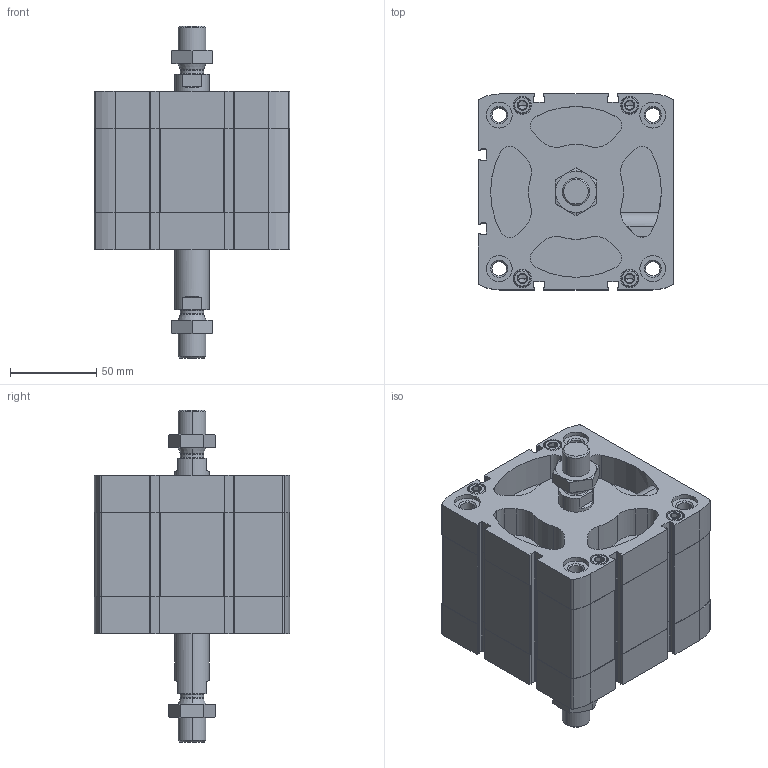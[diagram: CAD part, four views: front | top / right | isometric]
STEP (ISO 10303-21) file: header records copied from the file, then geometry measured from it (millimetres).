
FILE_DESCRIPTION (( 'STEP AP203' ), '1' );
FILE_NAME ('CCN100-25-P.STEP', '2020-06-22T19:09:14', ( '' ), ( '' ), 'SwSTEP 2.0', 'SolidWorks 2019', '' );
FILE_SCHEMA (( 'CONFIG_CONTROL_DESIGN' ));
Length unit declared in the file: millimetre
Products named in the file (1): CCN100-25-P
Bounding box: 113.5 x 113.5 x 192.4 mm (x, y, z)
Volume: 829324.1 mm3; surface area: 175640.9 mm2
Topology: 4 solids, 4 shells, 685 faces, 1757 edges, 1118 vertices
Faces by surface type: plane 305, cylinder 280, cone 92, torus 8
Entity records: 22642 total; most frequent: CARTESIAN_POINT 5549, DIRECTION 3721, ORIENTED_EDGE 3482, EDGE_CURVE 1741, AXIS2_PLACEMENT_3D 1392, VERTEX_POINT 1118, VECTOR 937, LINE 937
